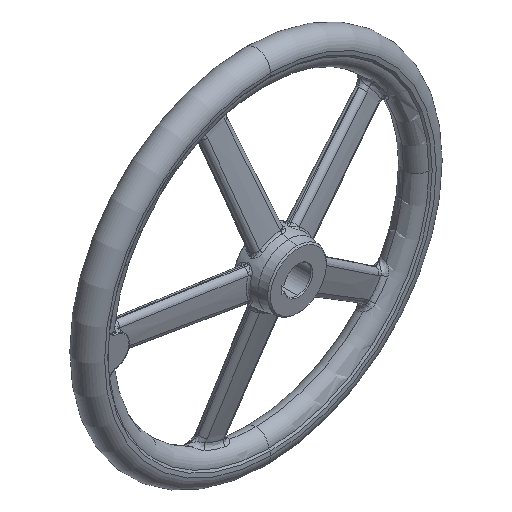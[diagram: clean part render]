
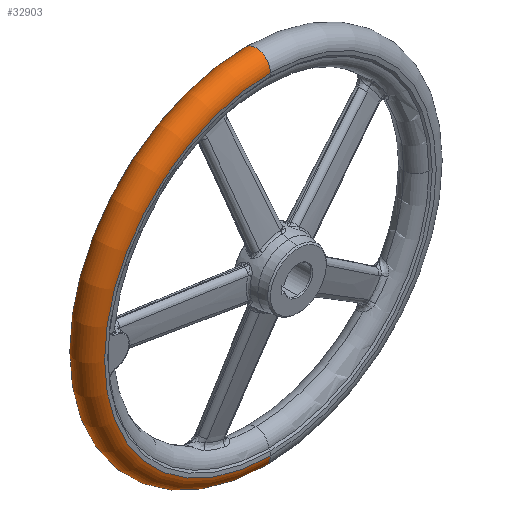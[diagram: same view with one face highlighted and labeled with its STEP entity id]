
A CAD part, isometric view. The second image highlights one B-rep face of the part: STEP entity #32903.
In plain terms, the highlighted toroidal (fillet/blend) face has major radius 184 mm and minor radius 16 mm.
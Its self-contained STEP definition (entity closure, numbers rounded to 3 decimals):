
#32375 = EDGE_CURVE ( 'NONE', #32383, #32381, #53955, .T. ) ;
#32381 = VERTEX_POINT ( 'NONE', #53963 ) ;
#32383 = VERTEX_POINT ( 'NONE', #53562 ) ;
#32475 = EDGE_CURVE ( 'NONE', #32505, #32542, #53993, .T. ) ;
#32491 = EDGE_CURVE ( 'NONE', #32381, #32542, #54016, .T. ) ;
#32505 = VERTEX_POINT ( 'NONE', #54660 ) ;
#32518 = EDGE_CURVE ( 'NONE', #32383, #32505, #54671, .T. ) ;
#32542 = VERTEX_POINT ( 'NONE', #54733 ) ;
#32898 = ORIENTED_EDGE ( 'NONE', *, *, #32518, .F. ) ;
#32903 = ADVANCED_FACE ( 'NONE', ( #56376 ), #56413, .T. ) ;
#32904 = EDGE_LOOP ( 'NONE', ( #32898, #32930, #32927, #32933 ) ) ;
#32927 = ORIENTED_EDGE ( 'NONE', *, *, #32491, .T. ) ;
#32930 = ORIENTED_EDGE ( 'NONE', *, *, #32375, .T. ) ;
#32933 = ORIENTED_EDGE ( 'NONE', *, *, #32475, .F. ) ;
#53562 = CARTESIAN_POINT ( 'NONE',  ( 0., 63., 184. ) ) ;
#53928 = AXIS2_PLACEMENT_3D ( 'NONE', #53981, #53979, #53978 ) ;
#53955 = CIRCLE ( 'NONE', #53928, 184. ) ;
#53963 = CARTESIAN_POINT ( 'NONE',  ( 0., 63., -184. ) ) ;
#53978 = DIRECTION ( 'NONE',  ( 0., 0., -1. ) ) ;
#53979 = DIRECTION ( 'NONE',  ( 0., -1., 0. ) ) ;
#53981 = CARTESIAN_POINT ( 'NONE',  ( 0., 63., 0. ) ) ;
#53991 = AXIS2_PLACEMENT_3D ( 'NONE', #54021, #54014, #54013 ) ;
#53993 = CIRCLE ( 'NONE', #53991, 184. ) ;
#54000 = AXIS2_PLACEMENT_3D ( 'NONE', #54012, #54011, #54024 ) ;
#54011 = DIRECTION ( 'NONE',  ( -1., 0., 0. ) ) ;
#54012 = CARTESIAN_POINT ( 'NONE',  ( 0., 47., -184. ) ) ;
#54013 = DIRECTION ( 'NONE',  ( 0., 0., -1. ) ) ;
#54014 = DIRECTION ( 'NONE',  ( 0., -1., 0. ) ) ;
#54016 = CIRCLE ( 'NONE', #54000, 16. ) ;
#54021 = CARTESIAN_POINT ( 'NONE',  ( 0., 31., 0. ) ) ;
#54024 = DIRECTION ( 'NONE',  ( 0., 0., 1. ) ) ;
#54660 = CARTESIAN_POINT ( 'NONE',  ( 0., 31., 184. ) ) ;
#54663 = CARTESIAN_POINT ( 'NONE',  ( 0., 47., 184. ) ) ;
#54671 = CIRCLE ( 'NONE', #54722, 16. ) ;
#54720 = DIRECTION ( 'NONE',  ( 0., 0., -1. ) ) ;
#54721 = DIRECTION ( 'NONE',  ( 1., 0., 0. ) ) ;
#54722 = AXIS2_PLACEMENT_3D ( 'NONE', #54663, #54721, #54720 ) ;
#54733 = CARTESIAN_POINT ( 'NONE',  ( 0., 31., -184. ) ) ;
#56376 = FACE_OUTER_BOUND ( 'NONE', #32904, .T. ) ;
#56378 = AXIS2_PLACEMENT_3D ( 'NONE', #56411, #56405, #56404 ) ;
#56404 = DIRECTION ( 'NONE',  ( 0., 0., -1. ) ) ;
#56405 = DIRECTION ( 'NONE',  ( 0., -1., 0. ) ) ;
#56411 = CARTESIAN_POINT ( 'NONE',  ( 0., 47., 0. ) ) ;
#56413 = TOROIDAL_SURFACE ( 'NONE', #56378, 184., 16. ) ;
